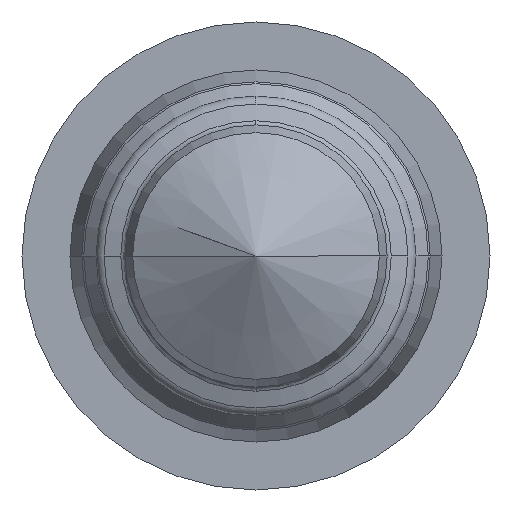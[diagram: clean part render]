
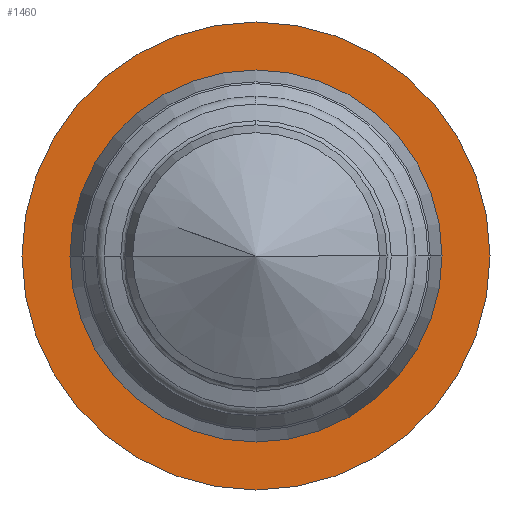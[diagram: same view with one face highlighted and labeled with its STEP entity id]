
A CAD part, front view. The second image highlights one B-rep face of the part: STEP entity #1460.
In plain terms, the highlighted planar face has unit normal (0, -1, 0).
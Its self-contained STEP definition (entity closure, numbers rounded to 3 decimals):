
#268=CARTESIAN_POINT('',(-0.472,-0.031,0.0));
#269=VERTEX_POINT('',#268);
#277=CARTESIAN_POINT('',(0.472,-0.031,0.));
#278=VERTEX_POINT('',#277);
#285=CARTESIAN_POINT('',(0.0,-0.031,0.0));
#286=DIRECTION('',(0.0,-1.0,0.0));
#287=DIRECTION('',(-1.0,0.0,0.0));
#288=AXIS2_PLACEMENT_3D('',#285,#286,#287);
#289=CIRCLE('',#288,0.472);
#290=EDGE_CURVE('',#278,#269,#289,.T.);
#300=CARTESIAN_POINT('',(-0.594,-0.031,0.0));
#301=VERTEX_POINT('',#300);
#310=CARTESIAN_POINT('',(0.594,-0.031,0.));
#311=VERTEX_POINT('',#310);
#312=CARTESIAN_POINT('',(0.0,-0.031,0.0));
#313=DIRECTION('',(0.0,-1.0,0.0));
#314=DIRECTION('',(-1.0,0.0,0.0));
#315=AXIS2_PLACEMENT_3D('',#312,#313,#314);
#316=CIRCLE('',#315,0.594);
#317=EDGE_CURVE('',#311,#301,#316,.T.);
#1431=CARTESIAN_POINT('',(0.0,-0.031,0.0));
#1432=DIRECTION('',(0.0,-1.0,0.0));
#1433=DIRECTION('',(-1.0,0.0,0.0));
#1434=AXIS2_PLACEMENT_3D('',#1431,#1432,#1433);
#1435=CIRCLE('',#1434,0.594);
#1436=EDGE_CURVE('',#301,#311,#1435,.T.);
#1441=CARTESIAN_POINT('',(-0.533,-0.031,0.0));
#1442=DIRECTION('',(0.0,-1.0,0.0));
#1443=DIRECTION('',(0.0,0.0,-1.0));
#1444=AXIS2_PLACEMENT_3D('',#1441,#1442,#1443);
#1445=PLANE('',#1444);
#1446=ORIENTED_EDGE('',*,*,#1436,.T.);
#1447=ORIENTED_EDGE('',*,*,#317,.T.);
#1448=EDGE_LOOP('',(#1446,#1447));
#1449=FACE_OUTER_BOUND('',#1448,.T.);
#1450=CARTESIAN_POINT('',(0.0,-0.031,0.0));
#1451=DIRECTION('',(0.0,-1.0,0.0));
#1452=DIRECTION('',(-1.0,0.0,0.0));
#1453=AXIS2_PLACEMENT_3D('',#1450,#1451,#1452);
#1454=CIRCLE('',#1453,0.472);
#1455=EDGE_CURVE('',#269,#278,#1454,.T.);
#1456=ORIENTED_EDGE('',*,*,#1455,.F.);
#1457=ORIENTED_EDGE('',*,*,#290,.F.);
#1458=EDGE_LOOP('',(#1456,#1457));
#1459=FACE_BOUND('',#1458,.T.);
#1460=ADVANCED_FACE('',(#1449,#1459),#1445,.T.);
